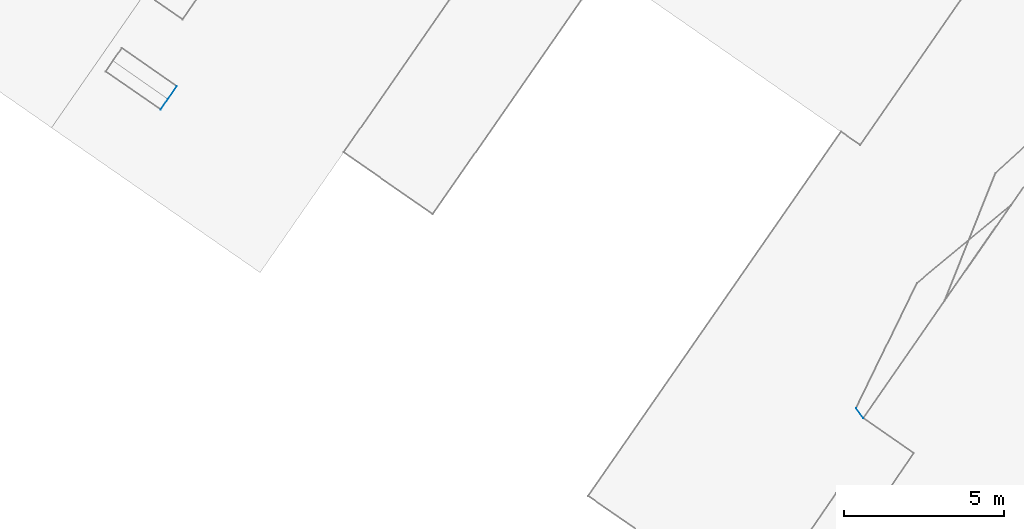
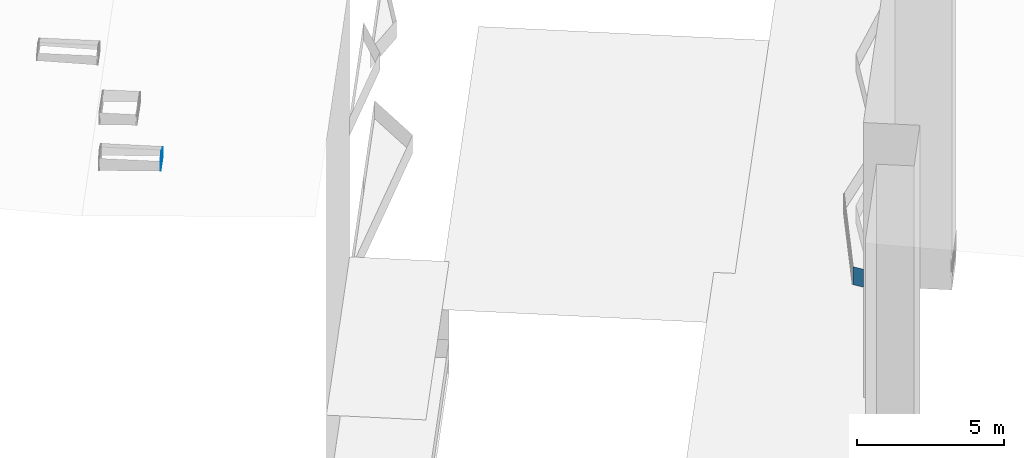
# Not in any storey, part 84 of 136: 4 walls.
"""IFC2X3 building model written with IfcOpenShell, lengths in metres."""

from ifc_helpers import new_model, entity, si_unit, converted_unit, frame, origin, place, context, subcontext, project, spatial, face_set, surface_model, element, save


model = new_model("IFC2X3")

# Units and contexts
model_context = context("Model", 3, precision=1e-05, world=origin())
body_context = subcontext(model_context, "Body", "Model", "MODEL_VIEW")
ifc_project = project(units=[converted_unit("PLANEANGLEUNIT", "DEGREE", entity("IfcRatioMeasure", 0.0174532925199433), si_unit("PLANEANGLEUNIT", "RADIAN"), dimensions=[0, 0, 0, 0, 0, 0, 0]), si_unit("AREAUNIT", "SQUARE_METRE"), si_unit("LENGTHUNIT", "METRE")], contexts=[model_context])

# Site, building
site_placement = place(None, origin())
site = spatial("IfcSite", under=ifc_project, at=site_placement, Name="_site", CompositionType="ELEMENT")
building_1_placement = place(site_placement, origin())
building_1 = spatial("IfcBuilding", under=site, at=building_1_placement, Name="_building", CompositionType="ELEMENT")

# Walls
for number, where, name in (
    (1, (0.0, 0.0, 0.0), "Wall"),
    (2, (0.0, 0.0, 0.0), "Wall"),
):
    element("IfcWall", number, at=place(building_1_placement, frame(where)), inside=building_1, Name=name, context=body_context, shape_type="SurfaceModel", body=[
        surface_model("IfcFaceBasedSurfaceModel", [(-28.62, 46.55, 47.1), (-28.85, 46.86, 47.1), (-28.85, 46.86, 47.85), (-28.62, 46.55, 47.85)], [face_set([[[0, 1, 2, 3]]])]),
    ])

# Building
building_2_placement = place(site_placement, origin())
building_2 = spatial("IfcBuilding", under=site, at=building_2_placement, Name="_building", CompositionType="ELEMENT")

# Walls
wall_1_placement = place(building_2_placement, origin())
element("IfcWall", 3, at=wall_1_placement, inside=building_2, Name="Wall", context=body_context, shape_type="SurfaceModel", body=[
    surface_model("IfcFaceBasedSurfaceModel", [(-50.42, 56.55, 54.37), (-50.65, 56.22, 54.18), (-50.65, 56.22, 53.771), (-50.42, 56.55, 53.771)], [face_set([[[0, 1, 2, 3]]])]),
])
wall_2_placement = place(building_2_placement, origin())
element("IfcWall", 4, at=wall_2_placement, inside=building_2, Name="Wall", context=body_context, shape_type="SurfaceModel", body=[
    surface_model("IfcFaceBasedSurfaceModel", [(-50.14, 56.95, 54.18), (-50.42, 56.55, 54.37), (-50.42, 56.55, 53.771), (-50.14, 56.95, 53.771)], [face_set([[[0, 1, 2, 3]]])]),
])

save(model, "model.ifc")
